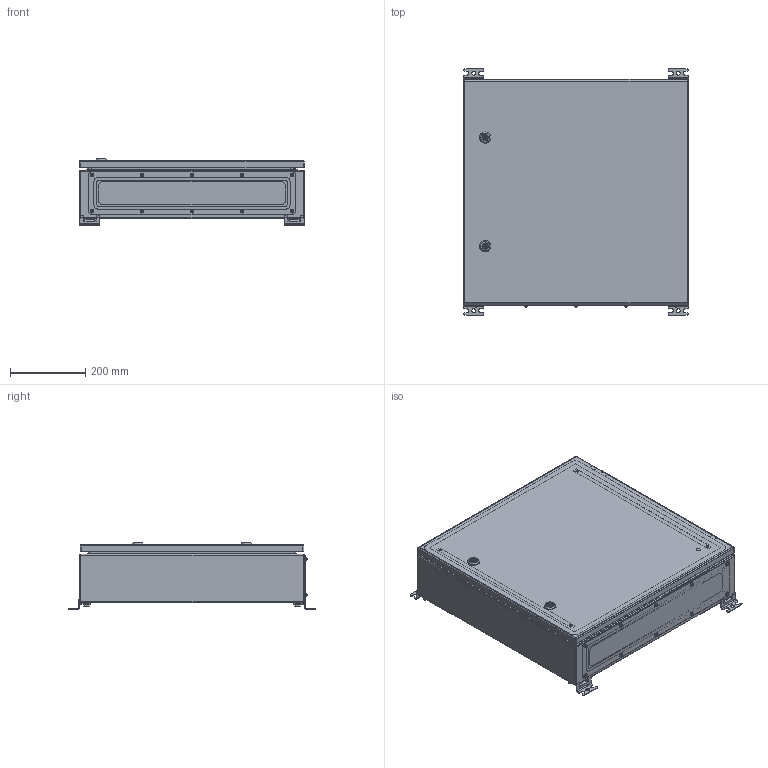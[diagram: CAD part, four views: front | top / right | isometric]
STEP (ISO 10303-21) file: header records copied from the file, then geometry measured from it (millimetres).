
FILE_DESCRIPTION(('STEP AP242'), '1');
FILE_NAME('400 ﾙﾌﾏ-1 (IP-56)', '', ('UNSPECIFIED'), ('UNSPECIFIED'), 'C3D Converter', 'C3D Toolkit', '');
FILE_SCHEMA(('AP242_MANAGED_MODEL_BASED_3D_ENGINEERING_MIM_LF { 1 0 10303 442 1 1 4 }'));
Length unit declared in the file: millimetre
Products named in the file (41): ЩМП-1-Л СБ; 410-Л; 420; 421; 411; 430-Л; 431-Л; 490; 491; 401; 440; 441; 402; 403
Assembly tree (129 placements, depth 4):
  ЩМП-1-Л СБ
    410-Л
      420
        421
        (unnamed)  x6
        (unnamed)
      411
      430-Л
        431-Л
        (unnamed)  x10
    490  x2
      491
      (unnamed)
      (unnamed)
      (unnamed)
      (unnamed)
      (unnamed)
    490  x2
      491
      (unnamed)
      (unnamed)
      (unnamed)
      (unnamed)
      (unnamed)
    401
    (unnamed)  x6
    (unnamed)  x6
    (unnamed)  x6
    (unnamed)  x2
      (unnamed)
      (unnamed)
      (unnamed)
    (unnamed)  x14
    440
      441
      (unnamed)
      (unnamed)  x4
      (unnamed)  x2
    402  x2
    (unnamed)  x4
    (unnamed)  x4
    (unnamed)  x2
      (unnamed)
      (unnamed)
      (unnamed)
      (unnamed)
      (unnamed)
    (unnamed)  x2
    403
    (unnamed)  x10
    (unnamed)  x10
Bounding box: 600 x 656 x 178.1 mm (x, y, z)
Volume: 2856072.8 mm3; surface area: 3362535.6 mm2
Topology: 141 solids, 141 shells, 2715 faces, 6422 edges, 4080 vertices
Faces by surface type: plane 1543, cylinder 780, cone 236, extrusion 54, sphere 38, torus 32, bspline 32
Full cylindrical faces by diameter (mm): 0.5 x4, 2.6 x8, 3.5 x76, 4.134 x10, 4.2 x4, 4.917 x4, 5 x16, 5.5 x14, 5.8 x2, 6 x26, 6.38 x10, 6.4 x14, 6.647 x10, 7 x6, 7.3 x4, 7.5 x6, 7.74 x10, 8 x12, 8.4 x10, 8.5 x26, 8.7 x10, 9 x8, 10 x18, 10.4 x2, 10.5 x6, 11 x10, 11.4 x1, 11.5 x5, 12 x2, 12.3 x4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
Entity records: 67470 total; most frequent: CARTESIAN_POINT 34934, DIRECTION 5300, ORIENTED_EDGE 5004, EDGE_CURVE 2502, AXIS2_PLACEMENT_3D 1963, VERTEX_POINT 1684, EDGE_LOOP 1496, VECTOR 1374
